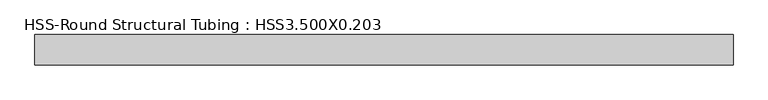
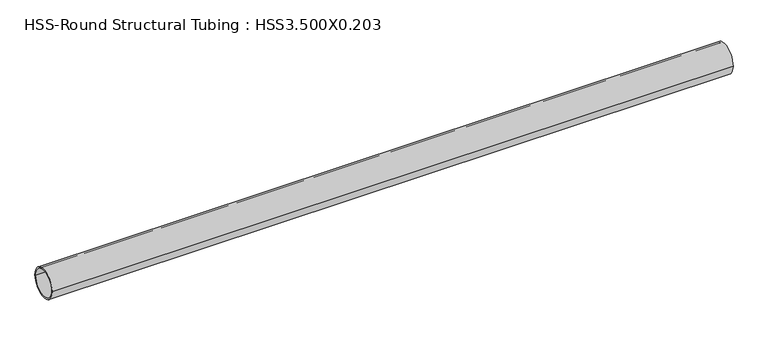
"""IFC4 building model written with IfcOpenShell, lengths in millimetres: member geometry, HSS-Round Structural Tubing : HSS3.500X0.203."""

from ifc_helpers import new_model, si_unit, point, frame, origin, origin_2d, place, context, project, spatial, circle_curve, trimmed, segment, composite_curve, outline, extrude, source, transform, mapped, element, save


def hss_round_structural_tubing_hss3_500x0_203_5dbfd05a(model_context):
    return source(origin(), model_context, "Body", "SweptSolid", [
        extrude(outline(composite_curve([segment(trimmed(circle_curve(origin_2d(), 44.45), [point((-44.45, 0.0))], [point((44.45, 0.0))], False, "CARTESIAN"), True, "CONTINUOUS"), segment(trimmed(circle_curve(origin_2d(), 44.45), [point((44.45, 0.0))], [point((-44.45, 0.0))], False, "CARTESIAN"), True, "CONTINUOUS")], self_intersect=False), holes=[composite_curve([segment(trimmed(circle_curve(origin_2d(), 39.6494), [point((39.6494, 0.0))], [point((-39.6494, 0.0))], True, "CARTESIAN"), True, "CONTINUOUS"), segment(trimmed(circle_curve(origin_2d(), 39.6494), [point((-39.6494, 0.0))], [point((39.6494, 0.0))], True, "CARTESIAN"), True, "CONTINUOUS")], self_intersect=False)]), frame((-1015.6063304, 0.0, 0.0), z_axis=(1.0, 0.0, 0.0), x_axis=(0.0, 1.0, 0.0)), (0.0, 0.0, 1.0), 2031.2126609),
    ])


if __name__ == "__main__":
    model = new_model("IFC4")
    model_context = context("Model", 3, world=origin())
    ifc_project = project(units=[si_unit("LENGTHUNIT", "METRE", prefix="MILLI")], contexts=[model_context])
    site = spatial("IfcSite", under=ifc_project)
    building = spatial("IfcBuilding", under=site)
    placement = place(None, origin())
    hss_round_structural_tubing_hss3_500x0_203_shape = hss_round_structural_tubing_hss3_500x0_203_5dbfd05a(model_context)
    element("IfcMember", 1, ObjectType="HSS-Round Structural Tubing : HSS3.500X0.203", at=placement, inside=building, context=model_context, shape_type="MappedRepresentation", body=[
        mapped(hss_round_structural_tubing_hss3_500x0_203_shape, transform((0.0, 0.0, 0.0), x_axis=(1.0, 0.0, 0.0), y_axis=(0.0, 1.0, 0.0), z_axis=(0.0, 0.0, 1.0))),
    ])
    save(model, "model.ifc")
